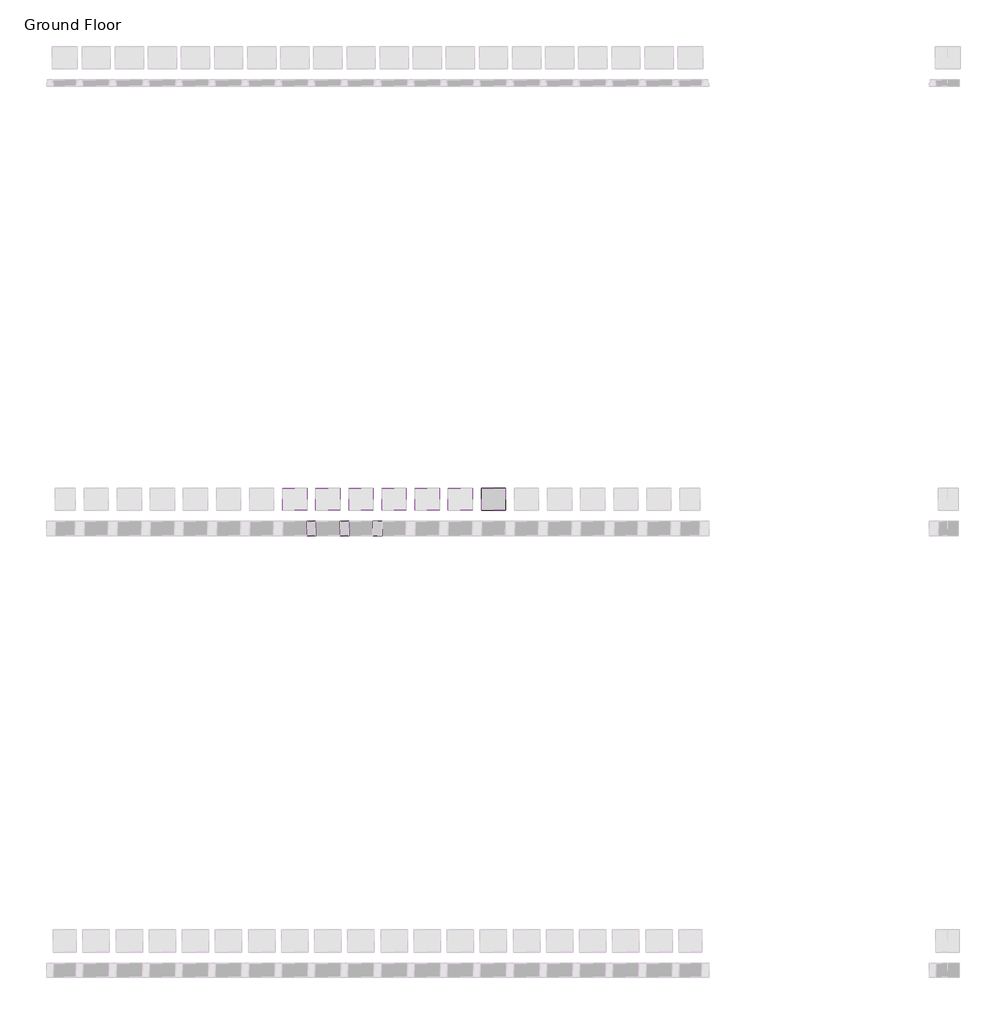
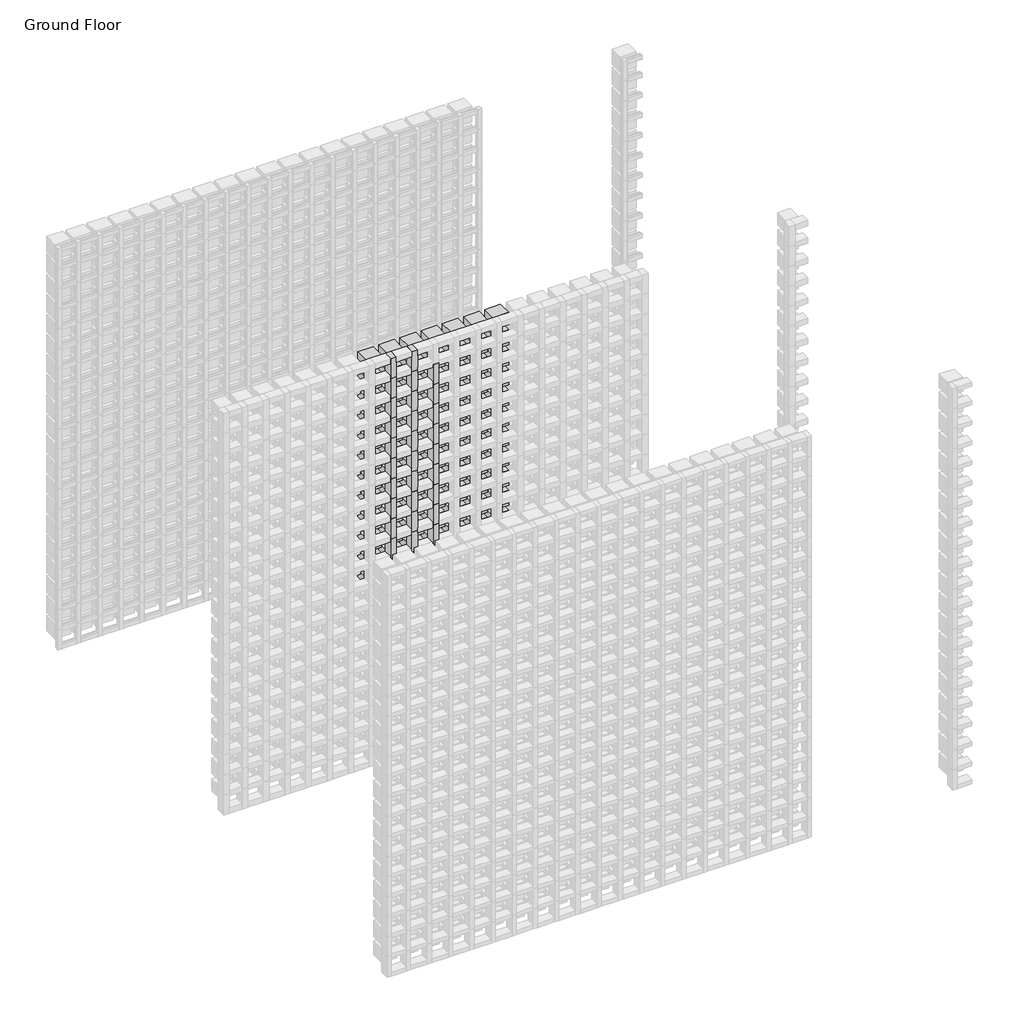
# One storey, part 130 of 350: 85 plates, 56 members.
"""IFC4 building model written with IfcOpenShell, lengths in millimetres."""

from ifc_helpers import new_model, si_unit, origin, place, context, project, spatial, transform, mapped, element, save
from components import rectangular_mullion_655930e9, empty_system_panel_empty_3b500fad, empty_system_panel_empty_1faefc6a

model = new_model("IFC4")

# Units and contexts
model_context = context("Model", 3, world=origin())
ifc_project = project(units=[si_unit("LENGTHUNIT", "METRE", prefix="MILLI")], contexts=[model_context])

# Site, building, storey
site = spatial("IfcSite", under=ifc_project)
building = spatial("IfcBuilding", under=site)
storey = spatial("IfcBuildingStorey", under=building, Name="Ground Floor", Elevation=0.0)

# Members
placement = place(None, origin())
rectangular_mullion_shape = rectangular_mullion_655930e9(model_context)
element("IfcMember", 1, ObjectType="Rectangular Mullion : Batten_Timber_Modinex_Austratus_Grid_Fascia_40x65_Hemlock", at=placement, inside=storey, context=model_context, shape_type="MappedRepresentation", body=[
    mapped(rectangular_mullion_shape, transform((11116.4361642, 40968.2978302, 150.0), x_axis=(1.0, 0.0, 0.0), y_axis=(0.0, -1.0, 0.0), z_axis=(0.0, 0.0, -1.0))),
])
element("IfcMember", 2, ObjectType="Rectangular Mullion : Batten_Timber_Modinex_Austratus_Grid_Fascia_40x65_Hemlock", at=placement, inside=storey, context=model_context, shape_type="MappedRepresentation", body=[
    mapped(rectangular_mullion_shape, transform((11116.4361642, 40968.2978302, 300.0), x_axis=(1.0, 0.0, 0.0), y_axis=(0.0, -1.0, 0.0), z_axis=(0.0, 0.0, -1.0))),
])
element("IfcMember", 3, ObjectType="Rectangular Mullion : Batten_Timber_Modinex_Austratus_Grid_Fascia_40x65_Hemlock", at=placement, inside=storey, context=model_context, shape_type="MappedRepresentation", body=[
    mapped(rectangular_mullion_shape, transform((11116.4361642, 40968.2978302, 450.0), x_axis=(1.0, 0.0, 0.0), y_axis=(0.0, -1.0, 0.0), z_axis=(0.0, 0.0, -1.0))),
])
element("IfcMember", 4, ObjectType="Rectangular Mullion : Batten_Timber_Modinex_Austratus_Grid_Fascia_40x65_Hemlock", at=placement, inside=storey, context=model_context, shape_type="MappedRepresentation", body=[
    mapped(rectangular_mullion_shape, transform((11116.4361642, 40968.2978302, 600.0), x_axis=(1.0, 0.0, 0.0), y_axis=(0.0, -1.0, 0.0), z_axis=(0.0, 0.0, -1.0))),
])
element("IfcMember", 5, ObjectType="Rectangular Mullion : Batten_Timber_Modinex_Austratus_Grid_Fascia_40x65_Hemlock", at=placement, inside=storey, context=model_context, shape_type="MappedRepresentation", body=[
    mapped(rectangular_mullion_shape, transform((11116.4361642, 40968.2978302, 750.0), x_axis=(1.0, 0.0, 0.0), y_axis=(0.0, -1.0, 0.0), z_axis=(0.0, 0.0, -1.0))),
])
element("IfcMember", 6, ObjectType="Rectangular Mullion : Batten_Timber_Modinex_Austratus_Grid_Fascia_40x65_Hemlock", at=placement, inside=storey, context=model_context, shape_type="MappedRepresentation", body=[
    mapped(rectangular_mullion_shape, transform((11116.4361642, 40968.2978302, 900.0), x_axis=(1.0, 0.0, 0.0), y_axis=(0.0, -1.0, 0.0), z_axis=(0.0, 0.0, -1.0))),
])
element("IfcMember", 7, ObjectType="Rectangular Mullion : Batten_Timber_Modinex_Austratus_Grid_Fascia_40x65_Hemlock", at=placement, inside=storey, context=model_context, shape_type="MappedRepresentation", body=[
    mapped(rectangular_mullion_shape, transform((11116.4361642, 40968.2978302, 1050.0), x_axis=(1.0, 0.0, 0.0), y_axis=(0.0, -1.0, 0.0), z_axis=(0.0, 0.0, -1.0))),
])
element("IfcMember", 8, ObjectType="Rectangular Mullion : Batten_Timber_Modinex_Austratus_Grid_Fascia_40x65_Hemlock", at=placement, inside=storey, context=model_context, shape_type="MappedRepresentation", body=[
    mapped(rectangular_mullion_shape, transform((11116.4361642, 40968.2978302, 1200.0), x_axis=(1.0, 0.0, 0.0), y_axis=(0.0, -1.0, 0.0), z_axis=(0.0, 0.0, -1.0))),
])
element("IfcMember", 9, ObjectType="Rectangular Mullion : Batten_Timber_Modinex_Austratus_Grid_Fascia_40x65_Hemlock", at=placement, inside=storey, context=model_context, shape_type="MappedRepresentation", body=[
    mapped(rectangular_mullion_shape, transform((11116.4361642, 40968.2978302, 1350.0), x_axis=(1.0, 0.0, 0.0), y_axis=(0.0, -1.0, 0.0), z_axis=(0.0, 0.0, -1.0))),
])
element("IfcMember", 10, ObjectType="Rectangular Mullion : Batten_Timber_Modinex_Austratus_Grid_Fascia_40x65_Hemlock", at=placement, inside=storey, context=model_context, shape_type="MappedRepresentation", body=[
    mapped(rectangular_mullion_shape, transform((11116.4361642, 40968.2978302, 1500.0), x_axis=(1.0, 0.0, 0.0), y_axis=(0.0, -1.0, 0.0), z_axis=(0.0, 0.0, -1.0))),
])
element("IfcMember", 11, ObjectType="Rectangular Mullion : Batten_Timber_Modinex_Austratus_Grid_Fascia_40x65_Hemlock", at=placement, inside=storey, context=model_context, shape_type="MappedRepresentation", body=[
    mapped(rectangular_mullion_shape, transform((11116.4361642, 40968.2978302, 1650.0), x_axis=(1.0, 0.0, 0.0), y_axis=(0.0, -1.0, 0.0), z_axis=(0.0, 0.0, -1.0))),
])
element("IfcMember", 12, ObjectType="Rectangular Mullion : Batten_Timber_Modinex_Austratus_Grid_Fascia_40x65_Hemlock", at=placement, inside=storey, context=model_context, shape_type="MappedRepresentation", body=[
    mapped(rectangular_mullion_shape, transform((11116.4361642, 40968.2978302, 1800.0), x_axis=(1.0, 0.0, 0.0), y_axis=(0.0, -1.0, 0.0), z_axis=(0.0, 0.0, -1.0))),
])
element("IfcMember", 13, ObjectType="Rectangular Mullion : Batten_Timber_Modinex_Austratus_Grid_Fascia_40x65_Hemlock", at=placement, inside=storey, context=model_context, shape_type="MappedRepresentation", body=[
    mapped(rectangular_mullion_shape, transform((11116.4361642, 40968.2978302, 1950.0), x_axis=(1.0, 0.0, 0.0), y_axis=(0.0, -1.0, 0.0), z_axis=(0.0, 0.0, -1.0))),
])
element("IfcMember", 14, ObjectType="Rectangular Mullion : Batten_Timber_Modinex_Austratus_Grid_Fascia_40x65_Hemlock", at=placement, inside=storey, context=model_context, shape_type="MappedRepresentation", body=[
    mapped(rectangular_mullion_shape, transform((11116.4361642, 40968.2978302, 2100.0), x_axis=(1.0, 0.0, 0.0), y_axis=(0.0, -1.0, 0.0), z_axis=(0.0, 0.0, -1.0))),
])
element("IfcMember", 15, ObjectType="Rectangular Mullion : Batten_Timber_Modinex_Austratus_Grid_Fascia_40x65_Hemlock", at=placement, inside=storey, context=model_context, shape_type="MappedRepresentation", body=[
    mapped(rectangular_mullion_shape, transform((11116.4361642, 40968.2978302, 2250.0), x_axis=(1.0, 0.0, 0.0), y_axis=(0.0, -1.0, 0.0), z_axis=(0.0, 0.0, -1.0))),
])
element("IfcMember", 16, ObjectType="Rectangular Mullion : Batten_Timber_Modinex_Austratus_Grid_Fascia_40x65_Hemlock", at=placement, inside=storey, context=model_context, shape_type="MappedRepresentation", body=[
    mapped(rectangular_mullion_shape, transform((11116.4361642, 40968.2978302, 2400.0), x_axis=(1.0, 0.0, 0.0), y_axis=(0.0, -1.0, 0.0), z_axis=(0.0, 0.0, -1.0))),
])
element("IfcMember", 17, ObjectType="Rectangular Mullion : Batten_Timber_Modinex_Austratus_Grid_Fascia_40x65_Hemlock", at=placement, inside=storey, context=model_context, shape_type="MappedRepresentation", body=[
    mapped(rectangular_mullion_shape, transform((11116.4361642, 40968.2978302, 2550.0), x_axis=(1.0, 0.0, 0.0), y_axis=(0.0, -1.0, 0.0), z_axis=(0.0, 0.0, -1.0))),
])
element("IfcMember", 18, ObjectType="Rectangular Mullion : Batten_Timber_Modinex_Austratus_Grid_Fascia_40x65_Hemlock", at=placement, inside=storey, context=model_context, shape_type="MappedRepresentation", body=[
    mapped(rectangular_mullion_shape, transform((11116.4361642, 40968.2978302, 2700.0), x_axis=(1.0, 0.0, 0.0), y_axis=(0.0, -1.0, 0.0), z_axis=(0.0, 0.0, -1.0))),
])
element("IfcMember", 19, ObjectType="Rectangular Mullion : Batten_Timber_Modinex_Austratus_Grid_Fascia_40x65_Hemlock", at=placement, inside=storey, context=model_context, shape_type="MappedRepresentation", body=[
    mapped(rectangular_mullion_shape, transform((11266.4361642, 40968.2978302, 150.0), x_axis=(1.0, 0.0, 0.0), y_axis=(0.0, -1.0, 0.0), z_axis=(0.0, 0.0, -1.0))),
])
element("IfcMember", 20, ObjectType="Rectangular Mullion : Batten_Timber_Modinex_Austratus_Grid_Fascia_40x65_Hemlock", at=placement, inside=storey, context=model_context, shape_type="MappedRepresentation", body=[
    mapped(rectangular_mullion_shape, transform((11266.4361642, 40968.2978302, 300.0), x_axis=(1.0, 0.0, 0.0), y_axis=(0.0, -1.0, 0.0), z_axis=(0.0, 0.0, -1.0))),
])
element("IfcMember", 21, ObjectType="Rectangular Mullion : Batten_Timber_Modinex_Austratus_Grid_Fascia_40x65_Hemlock", at=placement, inside=storey, context=model_context, shape_type="MappedRepresentation", body=[
    mapped(rectangular_mullion_shape, transform((11266.4361642, 40968.2978302, 450.0), x_axis=(1.0, 0.0, 0.0), y_axis=(0.0, -1.0, 0.0), z_axis=(0.0, 0.0, -1.0))),
])
element("IfcMember", 22, ObjectType="Rectangular Mullion : Batten_Timber_Modinex_Austratus_Grid_Fascia_40x65_Hemlock", at=placement, inside=storey, context=model_context, shape_type="MappedRepresentation", body=[
    mapped(rectangular_mullion_shape, transform((11266.4361642, 40968.2978302, 600.0), x_axis=(1.0, 0.0, 0.0), y_axis=(0.0, -1.0, 0.0), z_axis=(0.0, 0.0, -1.0))),
])
element("IfcMember", 23, ObjectType="Rectangular Mullion : Batten_Timber_Modinex_Austratus_Grid_Fascia_40x65_Hemlock", at=placement, inside=storey, context=model_context, shape_type="MappedRepresentation", body=[
    mapped(rectangular_mullion_shape, transform((11266.4361642, 40968.2978302, 750.0), x_axis=(1.0, 0.0, 0.0), y_axis=(0.0, -1.0, 0.0), z_axis=(0.0, 0.0, -1.0))),
])
element("IfcMember", 24, ObjectType="Rectangular Mullion : Batten_Timber_Modinex_Austratus_Grid_Fascia_40x65_Hemlock", at=placement, inside=storey, context=model_context, shape_type="MappedRepresentation", body=[
    mapped(rectangular_mullion_shape, transform((11266.4361642, 40968.2978302, 900.0), x_axis=(1.0, 0.0, 0.0), y_axis=(0.0, -1.0, 0.0), z_axis=(0.0, 0.0, -1.0))),
])
element("IfcMember", 25, ObjectType="Rectangular Mullion : Batten_Timber_Modinex_Austratus_Grid_Fascia_40x65_Hemlock", at=placement, inside=storey, context=model_context, shape_type="MappedRepresentation", body=[
    mapped(rectangular_mullion_shape, transform((11266.4361642, 40968.2978302, 1050.0), x_axis=(1.0, 0.0, 0.0), y_axis=(0.0, -1.0, 0.0), z_axis=(0.0, 0.0, -1.0))),
])
element("IfcMember", 26, ObjectType="Rectangular Mullion : Batten_Timber_Modinex_Austratus_Grid_Fascia_40x65_Hemlock", at=placement, inside=storey, context=model_context, shape_type="MappedRepresentation", body=[
    mapped(rectangular_mullion_shape, transform((11266.4361642, 40968.2978302, 1200.0), x_axis=(1.0, 0.0, 0.0), y_axis=(0.0, -1.0, 0.0), z_axis=(0.0, 0.0, -1.0))),
])
element("IfcMember", 27, ObjectType="Rectangular Mullion : Batten_Timber_Modinex_Austratus_Grid_Fascia_40x65_Hemlock", at=placement, inside=storey, context=model_context, shape_type="MappedRepresentation", body=[
    mapped(rectangular_mullion_shape, transform((11266.4361642, 40968.2978302, 1350.0), x_axis=(1.0, 0.0, 0.0), y_axis=(0.0, -1.0, 0.0), z_axis=(0.0, 0.0, -1.0))),
])
element("IfcMember", 28, ObjectType="Rectangular Mullion : Batten_Timber_Modinex_Austratus_Grid_Fascia_40x65_Hemlock", at=placement, inside=storey, context=model_context, shape_type="MappedRepresentation", body=[
    mapped(rectangular_mullion_shape, transform((11266.4361642, 40968.2978302, 1500.0), x_axis=(1.0, 0.0, 0.0), y_axis=(0.0, -1.0, 0.0), z_axis=(0.0, 0.0, -1.0))),
])
element("IfcMember", 29, ObjectType="Rectangular Mullion : Batten_Timber_Modinex_Austratus_Grid_Fascia_40x65_Hemlock", at=placement, inside=storey, context=model_context, shape_type="MappedRepresentation", body=[
    mapped(rectangular_mullion_shape, transform((11266.4361642, 40968.2978302, 1650.0), x_axis=(1.0, 0.0, 0.0), y_axis=(0.0, -1.0, 0.0), z_axis=(0.0, 0.0, -1.0))),
])
element("IfcMember", 30, ObjectType="Rectangular Mullion : Batten_Timber_Modinex_Austratus_Grid_Fascia_40x65_Hemlock", at=placement, inside=storey, context=model_context, shape_type="MappedRepresentation", body=[
    mapped(rectangular_mullion_shape, transform((11266.4361642, 40968.2978302, 1800.0), x_axis=(1.0, 0.0, 0.0), y_axis=(0.0, -1.0, 0.0), z_axis=(0.0, 0.0, -1.0))),
])
element("IfcMember", 31, ObjectType="Rectangular Mullion : Batten_Timber_Modinex_Austratus_Grid_Fascia_40x65_Hemlock", at=placement, inside=storey, context=model_context, shape_type="MappedRepresentation", body=[
    mapped(rectangular_mullion_shape, transform((11266.4361642, 40968.2978302, 1950.0), x_axis=(1.0, 0.0, 0.0), y_axis=(0.0, -1.0, 0.0), z_axis=(0.0, 0.0, -1.0))),
])
element("IfcMember", 32, ObjectType="Rectangular Mullion : Batten_Timber_Modinex_Austratus_Grid_Fascia_40x65_Hemlock", at=placement, inside=storey, context=model_context, shape_type="MappedRepresentation", body=[
    mapped(rectangular_mullion_shape, transform((11266.4361642, 40968.2978302, 2100.0), x_axis=(1.0, 0.0, 0.0), y_axis=(0.0, -1.0, 0.0), z_axis=(0.0, 0.0, -1.0))),
])
element("IfcMember", 33, ObjectType="Rectangular Mullion : Batten_Timber_Modinex_Austratus_Grid_Fascia_40x65_Hemlock", at=placement, inside=storey, context=model_context, shape_type="MappedRepresentation", body=[
    mapped(rectangular_mullion_shape, transform((11266.4361642, 40968.2978302, 2250.0), x_axis=(1.0, 0.0, 0.0), y_axis=(0.0, -1.0, 0.0), z_axis=(0.0, 0.0, -1.0))),
])
element("IfcMember", 34, ObjectType="Rectangular Mullion : Batten_Timber_Modinex_Austratus_Grid_Fascia_40x65_Hemlock", at=placement, inside=storey, context=model_context, shape_type="MappedRepresentation", body=[
    mapped(rectangular_mullion_shape, transform((11266.4361642, 40968.2978302, 2400.0), x_axis=(1.0, 0.0, 0.0), y_axis=(0.0, -1.0, 0.0), z_axis=(0.0, 0.0, -1.0))),
])
element("IfcMember", 35, ObjectType="Rectangular Mullion : Batten_Timber_Modinex_Austratus_Grid_Fascia_40x65_Hemlock", at=placement, inside=storey, context=model_context, shape_type="MappedRepresentation", body=[
    mapped(rectangular_mullion_shape, transform((11266.4361642, 40968.2978302, 2550.0), x_axis=(1.0, 0.0, 0.0), y_axis=(0.0, -1.0, 0.0), z_axis=(0.0, 0.0, -1.0))),
])
element("IfcMember", 36, ObjectType="Rectangular Mullion : Batten_Timber_Modinex_Austratus_Grid_Fascia_40x65_Hemlock", at=placement, inside=storey, context=model_context, shape_type="MappedRepresentation", body=[
    mapped(rectangular_mullion_shape, transform((11266.4361642, 40968.2978302, 2700.0), x_axis=(1.0, 0.0, 0.0), y_axis=(0.0, -1.0, 0.0), z_axis=(0.0, 0.0, -1.0))),
])
element("IfcMember", 37, ObjectType="Rectangular Mullion : Batten_Timber_Modinex_Austratus_Grid_Fascia_40x65_Hemlock", at=placement, inside=storey, context=model_context, shape_type="MappedRepresentation", body=[
    mapped(rectangular_mullion_shape, transform((11416.4361642, 40968.2978302, 150.0), x_axis=(1.0, 0.0, 0.0), y_axis=(0.0, -1.0, 0.0), z_axis=(0.0, 0.0, -1.0))),
])
element("IfcMember", 38, ObjectType="Rectangular Mullion : Batten_Timber_Modinex_Austratus_Grid_Fascia_40x65_Hemlock", at=placement, inside=storey, context=model_context, shape_type="MappedRepresentation", body=[
    mapped(rectangular_mullion_shape, transform((11416.4361642, 40968.2978302, 300.0), x_axis=(1.0, 0.0, 0.0), y_axis=(0.0, -1.0, 0.0), z_axis=(0.0, 0.0, -1.0))),
])
element("IfcMember", 39, ObjectType="Rectangular Mullion : Batten_Timber_Modinex_Austratus_Grid_Fascia_40x65_Hemlock", at=placement, inside=storey, context=model_context, shape_type="MappedRepresentation", body=[
    mapped(rectangular_mullion_shape, transform((11416.4361642, 40968.2978302, 450.0), x_axis=(1.0, 0.0, 0.0), y_axis=(0.0, -1.0, 0.0), z_axis=(0.0, 0.0, -1.0))),
])
element("IfcMember", 40, ObjectType="Rectangular Mullion : Batten_Timber_Modinex_Austratus_Grid_Fascia_40x65_Hemlock", at=placement, inside=storey, context=model_context, shape_type="MappedRepresentation", body=[
    mapped(rectangular_mullion_shape, transform((11416.4361642, 40968.2978302, 600.0), x_axis=(1.0, 0.0, 0.0), y_axis=(0.0, -1.0, 0.0), z_axis=(0.0, 0.0, -1.0))),
])
element("IfcMember", 41, ObjectType="Rectangular Mullion : Batten_Timber_Modinex_Austratus_Grid_Fascia_40x65_Hemlock", at=placement, inside=storey, context=model_context, shape_type="MappedRepresentation", body=[
    mapped(rectangular_mullion_shape, transform((11416.4361642, 40968.2978302, 750.0), x_axis=(1.0, 0.0, 0.0), y_axis=(0.0, -1.0, 0.0), z_axis=(0.0, 0.0, -1.0))),
])
element("IfcMember", 42, ObjectType="Rectangular Mullion : Batten_Timber_Modinex_Austratus_Grid_Fascia_40x65_Hemlock", at=placement, inside=storey, context=model_context, shape_type="MappedRepresentation", body=[
    mapped(rectangular_mullion_shape, transform((11416.4361642, 40968.2978302, 900.0), x_axis=(1.0, 0.0, 0.0), y_axis=(0.0, -1.0, 0.0), z_axis=(0.0, 0.0, -1.0))),
])
element("IfcMember", 43, ObjectType="Rectangular Mullion : Batten_Timber_Modinex_Austratus_Grid_Fascia_40x65_Hemlock", at=placement, inside=storey, context=model_context, shape_type="MappedRepresentation", body=[
    mapped(rectangular_mullion_shape, transform((11416.4361642, 40968.2978302, 1050.0), x_axis=(1.0, 0.0, 0.0), y_axis=(0.0, -1.0, 0.0), z_axis=(0.0, 0.0, -1.0))),
])
element("IfcMember", 44, ObjectType="Rectangular Mullion : Batten_Timber_Modinex_Austratus_Grid_Fascia_40x65_Hemlock", at=placement, inside=storey, context=model_context, shape_type="MappedRepresentation", body=[
    mapped(rectangular_mullion_shape, transform((11416.4361642, 40968.2978302, 1200.0), x_axis=(1.0, 0.0, 0.0), y_axis=(0.0, -1.0, 0.0), z_axis=(0.0, 0.0, -1.0))),
])
element("IfcMember", 45, ObjectType="Rectangular Mullion : Batten_Timber_Modinex_Austratus_Grid_Fascia_40x65_Hemlock", at=placement, inside=storey, context=model_context, shape_type="MappedRepresentation", body=[
    mapped(rectangular_mullion_shape, transform((11416.4361642, 40968.2978302, 1350.0), x_axis=(1.0, 0.0, 0.0), y_axis=(0.0, -1.0, 0.0), z_axis=(0.0, 0.0, -1.0))),
])
element("IfcMember", 46, ObjectType="Rectangular Mullion : Batten_Timber_Modinex_Austratus_Grid_Fascia_40x65_Hemlock", at=placement, inside=storey, context=model_context, shape_type="MappedRepresentation", body=[
    mapped(rectangular_mullion_shape, transform((11416.4361642, 40968.2978302, 1500.0), x_axis=(1.0, 0.0, 0.0), y_axis=(0.0, -1.0, 0.0), z_axis=(0.0, 0.0, -1.0))),
])
element("IfcMember", 47, ObjectType="Rectangular Mullion : Batten_Timber_Modinex_Austratus_Grid_Fascia_40x65_Hemlock", at=placement, inside=storey, context=model_context, shape_type="MappedRepresentation", body=[
    mapped(rectangular_mullion_shape, transform((11416.4361642, 40968.2978302, 1650.0), x_axis=(1.0, 0.0, 0.0), y_axis=(0.0, -1.0, 0.0), z_axis=(0.0, 0.0, -1.0))),
])
element("IfcMember", 48, ObjectType="Rectangular Mullion : Batten_Timber_Modinex_Austratus_Grid_Fascia_40x65_Hemlock", at=placement, inside=storey, context=model_context, shape_type="MappedRepresentation", body=[
    mapped(rectangular_mullion_shape, transform((11416.4361642, 40968.2978302, 1800.0), x_axis=(1.0, 0.0, 0.0), y_axis=(0.0, -1.0, 0.0), z_axis=(0.0, 0.0, -1.0))),
])
element("IfcMember", 49, ObjectType="Rectangular Mullion : Batten_Timber_Modinex_Austratus_Grid_Fascia_40x65_Hemlock", at=placement, inside=storey, context=model_context, shape_type="MappedRepresentation", body=[
    mapped(rectangular_mullion_shape, transform((11416.4361642, 40968.2978302, 1950.0), x_axis=(1.0, 0.0, 0.0), y_axis=(0.0, -1.0, 0.0), z_axis=(0.0, 0.0, -1.0))),
])
element("IfcMember", 50, ObjectType="Rectangular Mullion : Batten_Timber_Modinex_Austratus_Grid_Fascia_40x65_Hemlock", at=placement, inside=storey, context=model_context, shape_type="MappedRepresentation", body=[
    mapped(rectangular_mullion_shape, transform((11416.4361642, 40968.2978302, 2100.0), x_axis=(1.0, 0.0, 0.0), y_axis=(0.0, -1.0, 0.0), z_axis=(0.0, 0.0, -1.0))),
])
element("IfcMember", 51, ObjectType="Rectangular Mullion : Batten_Timber_Modinex_Austratus_Grid_Fascia_40x65_Hemlock", at=placement, inside=storey, context=model_context, shape_type="MappedRepresentation", body=[
    mapped(rectangular_mullion_shape, transform((11416.4361642, 40968.2978302, 2250.0), x_axis=(1.0, 0.0, 0.0), y_axis=(0.0, -1.0, 0.0), z_axis=(0.0, 0.0, -1.0))),
])
element("IfcMember", 52, ObjectType="Rectangular Mullion : Batten_Timber_Modinex_Austratus_Grid_Fascia_40x65_Hemlock", at=placement, inside=storey, context=model_context, shape_type="MappedRepresentation", body=[
    mapped(rectangular_mullion_shape, transform((11416.4361642, 40968.2978302, 2400.0), x_axis=(1.0, 0.0, 0.0), y_axis=(0.0, -1.0, 0.0), z_axis=(0.0, 0.0, -1.0))),
])
element("IfcMember", 53, ObjectType="Rectangular Mullion : Batten_Timber_Modinex_Austratus_Grid_Fascia_40x65_Hemlock", at=placement, inside=storey, context=model_context, shape_type="MappedRepresentation", body=[
    mapped(rectangular_mullion_shape, transform((11416.4361642, 40968.2978302, 2550.0), x_axis=(1.0, 0.0, 0.0), y_axis=(0.0, -1.0, 0.0), z_axis=(0.0, 0.0, -1.0))),
])
element("IfcMember", 54, ObjectType="Rectangular Mullion : Batten_Timber_Modinex_Austratus_Grid_Fascia_40x65_Hemlock", at=placement, inside=storey, context=model_context, shape_type="MappedRepresentation", body=[
    mapped(rectangular_mullion_shape, transform((11416.4361642, 40968.2978302, 2700.0), x_axis=(1.0, 0.0, 0.0), y_axis=(0.0, -1.0, 0.0), z_axis=(0.0, 0.0, -1.0))),
])
element("IfcMember", 55, ObjectType="Rectangular Mullion : Batten_Timber_Modinex_Austratus_Grid_Fascia_40x65_Hemlock", at=placement, inside=storey, context=model_context, shape_type="MappedRepresentation", body=[
    mapped(rectangular_mullion_shape, transform((11116.4361642, 40968.2978302, 2850.0), x_axis=(1.0, 0.0, 0.0), y_axis=(0.0, -1.0, 0.0), z_axis=(0.0, 0.0, -1.0))),
])
element("IfcMember", 56, ObjectType="Rectangular Mullion : Batten_Timber_Modinex_Austratus_Grid_Fascia_40x65_Hemlock", at=placement, inside=storey, context=model_context, shape_type="MappedRepresentation", body=[
    mapped(rectangular_mullion_shape, transform((11266.4361642, 40968.2978302, 2850.0), x_axis=(1.0, 0.0, 0.0), y_axis=(0.0, -1.0, 0.0), z_axis=(0.0, 0.0, -1.0))),
])

# Plates
empty_system_panel_empty_shape = empty_system_panel_empty_3b500fad(model_context)
element("IfcPlate", 57, ObjectType="Empty System Panel : Empty", at=placement, inside=storey, context=model_context, shape_type="MappedRepresentation", body=[
    mapped(empty_system_panel_empty_shape, transform((11941.4361642, 40968.2978302, 1070.0), x_axis=(1.0, 0.0, 0.0), y_axis=(0.0, 1.0, 0.0), z_axis=(0.0, 0.0, 1.0))),
])
element("IfcPlate", 58, ObjectType="Empty System Panel : Empty", at=placement, inside=storey, context=model_context, shape_type="MappedRepresentation", body=[
    mapped(empty_system_panel_empty_shape, transform((11041.4361642, 40968.2978302, 1220.0), x_axis=(1.0, 0.0, 0.0), y_axis=(0.0, 1.0, 0.0), z_axis=(0.0, 0.0, 1.0))),
])
element("IfcPlate", 59, ObjectType="Empty System Panel : Empty", at=placement, inside=storey, context=model_context, shape_type="MappedRepresentation", body=[
    mapped(empty_system_panel_empty_shape, transform((11191.4361642, 40968.2978302, 1220.0), x_axis=(1.0, 0.0, 0.0), y_axis=(0.0, 1.0, 0.0), z_axis=(0.0, 0.0, 1.0))),
])
element("IfcPlate", 60, ObjectType="Empty System Panel : Empty", at=placement, inside=storey, context=model_context, shape_type="MappedRepresentation", body=[
    mapped(empty_system_panel_empty_shape, transform((11341.4361642, 40968.2978302, 1220.0), x_axis=(1.0, 0.0, 0.0), y_axis=(0.0, 1.0, 0.0), z_axis=(0.0, 0.0, 1.0))),
])
element("IfcPlate", 61, ObjectType="Empty System Panel : Empty", at=placement, inside=storey, context=model_context, shape_type="MappedRepresentation", body=[
    mapped(empty_system_panel_empty_shape, transform((11491.4361642, 40968.2978302, 1220.0), x_axis=(1.0, 0.0, 0.0), y_axis=(0.0, 1.0, 0.0), z_axis=(0.0, 0.0, 1.0))),
])
element("IfcPlate", 62, ObjectType="Empty System Panel : Empty", at=placement, inside=storey, context=model_context, shape_type="MappedRepresentation", body=[
    mapped(empty_system_panel_empty_shape, transform((11641.4361642, 40968.2978302, 1220.0), x_axis=(1.0, 0.0, 0.0), y_axis=(0.0, 1.0, 0.0), z_axis=(0.0, 0.0, 1.0))),
])
element("IfcPlate", 63, ObjectType="Empty System Panel : Empty", at=placement, inside=storey, context=model_context, shape_type="MappedRepresentation", body=[
    mapped(empty_system_panel_empty_shape, transform((11791.4361642, 40968.2978302, 1220.0), x_axis=(1.0, 0.0, 0.0), y_axis=(0.0, 1.0, 0.0), z_axis=(0.0, 0.0, 1.0))),
])
element("IfcPlate", 64, ObjectType="Empty System Panel : Empty", at=placement, inside=storey, context=model_context, shape_type="MappedRepresentation", body=[
    mapped(empty_system_panel_empty_shape, transform((11941.4361642, 40968.2978302, 1220.0), x_axis=(1.0, 0.0, 0.0), y_axis=(0.0, 1.0, 0.0), z_axis=(0.0, 0.0, 1.0))),
])
element("IfcPlate", 65, ObjectType="Empty System Panel : Empty", at=placement, inside=storey, context=model_context, shape_type="MappedRepresentation", body=[
    mapped(empty_system_panel_empty_shape, transform((11041.4361642, 40968.2978302, 1370.0), x_axis=(1.0, 0.0, 0.0), y_axis=(0.0, 1.0, 0.0), z_axis=(0.0, 0.0, 1.0))),
])
element("IfcPlate", 66, ObjectType="Empty System Panel : Empty", at=placement, inside=storey, context=model_context, shape_type="MappedRepresentation", body=[
    mapped(empty_system_panel_empty_shape, transform((11191.4361642, 40968.2978302, 1370.0), x_axis=(1.0, 0.0, 0.0), y_axis=(0.0, 1.0, 0.0), z_axis=(0.0, 0.0, 1.0))),
])
element("IfcPlate", 67, ObjectType="Empty System Panel : Empty", at=placement, inside=storey, context=model_context, shape_type="MappedRepresentation", body=[
    mapped(empty_system_panel_empty_shape, transform((11341.4361642, 40968.2978302, 1370.0), x_axis=(1.0, 0.0, 0.0), y_axis=(0.0, 1.0, 0.0), z_axis=(0.0, 0.0, 1.0))),
])
element("IfcPlate", 68, ObjectType="Empty System Panel : Empty", at=placement, inside=storey, context=model_context, shape_type="MappedRepresentation", body=[
    mapped(empty_system_panel_empty_shape, transform((11491.4361642, 40968.2978302, 1370.0), x_axis=(1.0, 0.0, 0.0), y_axis=(0.0, 1.0, 0.0), z_axis=(0.0, 0.0, 1.0))),
])
element("IfcPlate", 69, ObjectType="Empty System Panel : Empty", at=placement, inside=storey, context=model_context, shape_type="MappedRepresentation", body=[
    mapped(empty_system_panel_empty_shape, transform((11641.4361642, 40968.2978302, 1370.0), x_axis=(1.0, 0.0, 0.0), y_axis=(0.0, 1.0, 0.0), z_axis=(0.0, 0.0, 1.0))),
])
element("IfcPlate", 70, ObjectType="Empty System Panel : Empty", at=placement, inside=storey, context=model_context, shape_type="MappedRepresentation", body=[
    mapped(empty_system_panel_empty_shape, transform((11791.4361642, 40968.2978302, 1370.0), x_axis=(1.0, 0.0, 0.0), y_axis=(0.0, 1.0, 0.0), z_axis=(0.0, 0.0, 1.0))),
])
element("IfcPlate", 71, ObjectType="Empty System Panel : Empty", at=placement, inside=storey, context=model_context, shape_type="MappedRepresentation", body=[
    mapped(empty_system_panel_empty_shape, transform((11941.4361642, 40968.2978302, 1370.0), x_axis=(1.0, 0.0, 0.0), y_axis=(0.0, 1.0, 0.0), z_axis=(0.0, 0.0, 1.0))),
])
element("IfcPlate", 72, ObjectType="Empty System Panel : Empty", at=placement, inside=storey, context=model_context, shape_type="MappedRepresentation", body=[
    mapped(empty_system_panel_empty_shape, transform((11041.4361642, 40968.2978302, 1520.0), x_axis=(1.0, 0.0, 0.0), y_axis=(0.0, 1.0, 0.0), z_axis=(0.0, 0.0, 1.0))),
])
element("IfcPlate", 73, ObjectType="Empty System Panel : Empty", at=placement, inside=storey, context=model_context, shape_type="MappedRepresentation", body=[
    mapped(empty_system_panel_empty_shape, transform((11191.4361642, 40968.2978302, 1520.0), x_axis=(1.0, 0.0, 0.0), y_axis=(0.0, 1.0, 0.0), z_axis=(0.0, 0.0, 1.0))),
])
element("IfcPlate", 74, ObjectType="Empty System Panel : Empty", at=placement, inside=storey, context=model_context, shape_type="MappedRepresentation", body=[
    mapped(empty_system_panel_empty_shape, transform((11341.4361642, 40968.2978302, 1520.0), x_axis=(1.0, 0.0, 0.0), y_axis=(0.0, 1.0, 0.0), z_axis=(0.0, 0.0, 1.0))),
])
element("IfcPlate", 75, ObjectType="Empty System Panel : Empty", at=placement, inside=storey, context=model_context, shape_type="MappedRepresentation", body=[
    mapped(empty_system_panel_empty_shape, transform((11491.4361642, 40968.2978302, 1520.0), x_axis=(1.0, 0.0, 0.0), y_axis=(0.0, 1.0, 0.0), z_axis=(0.0, 0.0, 1.0))),
])
element("IfcPlate", 76, ObjectType="Empty System Panel : Empty", at=placement, inside=storey, context=model_context, shape_type="MappedRepresentation", body=[
    mapped(empty_system_panel_empty_shape, transform((11641.4361642, 40968.2978302, 1520.0), x_axis=(1.0, 0.0, 0.0), y_axis=(0.0, 1.0, 0.0), z_axis=(0.0, 0.0, 1.0))),
])
element("IfcPlate", 77, ObjectType="Empty System Panel : Empty", at=placement, inside=storey, context=model_context, shape_type="MappedRepresentation", body=[
    mapped(empty_system_panel_empty_shape, transform((11791.4361642, 40968.2978302, 1520.0), x_axis=(1.0, 0.0, 0.0), y_axis=(0.0, 1.0, 0.0), z_axis=(0.0, 0.0, 1.0))),
])
element("IfcPlate", 78, ObjectType="Empty System Panel : Empty", at=placement, inside=storey, context=model_context, shape_type="MappedRepresentation", body=[
    mapped(empty_system_panel_empty_shape, transform((11941.4361642, 40968.2978302, 1520.0), x_axis=(1.0, 0.0, 0.0), y_axis=(0.0, 1.0, 0.0), z_axis=(0.0, 0.0, 1.0))),
])
element("IfcPlate", 79, ObjectType="Empty System Panel : Empty", at=placement, inside=storey, context=model_context, shape_type="MappedRepresentation", body=[
    mapped(empty_system_panel_empty_shape, transform((11041.4361642, 40968.2978302, 1670.0), x_axis=(1.0, 0.0, 0.0), y_axis=(0.0, 1.0, 0.0), z_axis=(0.0, 0.0, 1.0))),
])
element("IfcPlate", 80, ObjectType="Empty System Panel : Empty", at=placement, inside=storey, context=model_context, shape_type="MappedRepresentation", body=[
    mapped(empty_system_panel_empty_shape, transform((11191.4361642, 40968.2978302, 1670.0), x_axis=(1.0, 0.0, 0.0), y_axis=(0.0, 1.0, 0.0), z_axis=(0.0, 0.0, 1.0))),
])
element("IfcPlate", 81, ObjectType="Empty System Panel : Empty", at=placement, inside=storey, context=model_context, shape_type="MappedRepresentation", body=[
    mapped(empty_system_panel_empty_shape, transform((11341.4361642, 40968.2978302, 1670.0), x_axis=(1.0, 0.0, 0.0), y_axis=(0.0, 1.0, 0.0), z_axis=(0.0, 0.0, 1.0))),
])
element("IfcPlate", 82, ObjectType="Empty System Panel : Empty", at=placement, inside=storey, context=model_context, shape_type="MappedRepresentation", body=[
    mapped(empty_system_panel_empty_shape, transform((11491.4361642, 40968.2978302, 1670.0), x_axis=(1.0, 0.0, 0.0), y_axis=(0.0, 1.0, 0.0), z_axis=(0.0, 0.0, 1.0))),
])
element("IfcPlate", 83, ObjectType="Empty System Panel : Empty", at=placement, inside=storey, context=model_context, shape_type="MappedRepresentation", body=[
    mapped(empty_system_panel_empty_shape, transform((11641.4361642, 40968.2978302, 1670.0), x_axis=(1.0, 0.0, 0.0), y_axis=(0.0, 1.0, 0.0), z_axis=(0.0, 0.0, 1.0))),
])
element("IfcPlate", 84, ObjectType="Empty System Panel : Empty", at=placement, inside=storey, context=model_context, shape_type="MappedRepresentation", body=[
    mapped(empty_system_panel_empty_shape, transform((11791.4361642, 40968.2978302, 1670.0), x_axis=(1.0, 0.0, 0.0), y_axis=(0.0, 1.0, 0.0), z_axis=(0.0, 0.0, 1.0))),
])
element("IfcPlate", 85, ObjectType="Empty System Panel : Empty", at=placement, inside=storey, context=model_context, shape_type="MappedRepresentation", body=[
    mapped(empty_system_panel_empty_shape, transform((11941.4361642, 40968.2978302, 1670.0), x_axis=(1.0, 0.0, 0.0), y_axis=(0.0, 1.0, 0.0), z_axis=(0.0, 0.0, 1.0))),
])
element("IfcPlate", 86, ObjectType="Empty System Panel : Empty", at=placement, inside=storey, context=model_context, shape_type="MappedRepresentation", body=[
    mapped(empty_system_panel_empty_shape, transform((11041.4361642, 40968.2978302, 1820.0), x_axis=(1.0, 0.0, 0.0), y_axis=(0.0, 1.0, 0.0), z_axis=(0.0, 0.0, 1.0))),
])
element("IfcPlate", 87, ObjectType="Empty System Panel : Empty", at=placement, inside=storey, context=model_context, shape_type="MappedRepresentation", body=[
    mapped(empty_system_panel_empty_shape, transform((11191.4361642, 40968.2978302, 1820.0), x_axis=(1.0, 0.0, 0.0), y_axis=(0.0, 1.0, 0.0), z_axis=(0.0, 0.0, 1.0))),
])
element("IfcPlate", 88, ObjectType="Empty System Panel : Empty", at=placement, inside=storey, context=model_context, shape_type="MappedRepresentation", body=[
    mapped(empty_system_panel_empty_shape, transform((11341.4361642, 40968.2978302, 1820.0), x_axis=(1.0, 0.0, 0.0), y_axis=(0.0, 1.0, 0.0), z_axis=(0.0, 0.0, 1.0))),
])
element("IfcPlate", 89, ObjectType="Empty System Panel : Empty", at=placement, inside=storey, context=model_context, shape_type="MappedRepresentation", body=[
    mapped(empty_system_panel_empty_shape, transform((11491.4361642, 40968.2978302, 1820.0), x_axis=(1.0, 0.0, 0.0), y_axis=(0.0, 1.0, 0.0), z_axis=(0.0, 0.0, 1.0))),
])
element("IfcPlate", 90, ObjectType="Empty System Panel : Empty", at=placement, inside=storey, context=model_context, shape_type="MappedRepresentation", body=[
    mapped(empty_system_panel_empty_shape, transform((11641.4361642, 40968.2978302, 1820.0), x_axis=(1.0, 0.0, 0.0), y_axis=(0.0, 1.0, 0.0), z_axis=(0.0, 0.0, 1.0))),
])
element("IfcPlate", 91, ObjectType="Empty System Panel : Empty", at=placement, inside=storey, context=model_context, shape_type="MappedRepresentation", body=[
    mapped(empty_system_panel_empty_shape, transform((11791.4361642, 40968.2978302, 1820.0), x_axis=(1.0, 0.0, 0.0), y_axis=(0.0, 1.0, 0.0), z_axis=(0.0, 0.0, 1.0))),
])
element("IfcPlate", 92, ObjectType="Empty System Panel : Empty", at=placement, inside=storey, context=model_context, shape_type="MappedRepresentation", body=[
    mapped(empty_system_panel_empty_shape, transform((11941.4361642, 40968.2978302, 1820.0), x_axis=(1.0, 0.0, 0.0), y_axis=(0.0, 1.0, 0.0), z_axis=(0.0, 0.0, 1.0))),
])
element("IfcPlate", 93, ObjectType="Empty System Panel : Empty", at=placement, inside=storey, context=model_context, shape_type="MappedRepresentation", body=[
    mapped(empty_system_panel_empty_shape, transform((11041.4361642, 40968.2978302, 1970.0), x_axis=(1.0, 0.0, 0.0), y_axis=(0.0, 1.0, 0.0), z_axis=(0.0, 0.0, 1.0))),
])
element("IfcPlate", 94, ObjectType="Empty System Panel : Empty", at=placement, inside=storey, context=model_context, shape_type="MappedRepresentation", body=[
    mapped(empty_system_panel_empty_shape, transform((11191.4361642, 40968.2978302, 1970.0), x_axis=(1.0, 0.0, 0.0), y_axis=(0.0, 1.0, 0.0), z_axis=(0.0, 0.0, 1.0))),
])
element("IfcPlate", 95, ObjectType="Empty System Panel : Empty", at=placement, inside=storey, context=model_context, shape_type="MappedRepresentation", body=[
    mapped(empty_system_panel_empty_shape, transform((11341.4361642, 40968.2978302, 1970.0), x_axis=(1.0, 0.0, 0.0), y_axis=(0.0, 1.0, 0.0), z_axis=(0.0, 0.0, 1.0))),
])
element("IfcPlate", 96, ObjectType="Empty System Panel : Empty", at=placement, inside=storey, context=model_context, shape_type="MappedRepresentation", body=[
    mapped(empty_system_panel_empty_shape, transform((11491.4361642, 40968.2978302, 1970.0), x_axis=(1.0, 0.0, 0.0), y_axis=(0.0, 1.0, 0.0), z_axis=(0.0, 0.0, 1.0))),
])
element("IfcPlate", 97, ObjectType="Empty System Panel : Empty", at=placement, inside=storey, context=model_context, shape_type="MappedRepresentation", body=[
    mapped(empty_system_panel_empty_shape, transform((11641.4361642, 40968.2978302, 1970.0), x_axis=(1.0, 0.0, 0.0), y_axis=(0.0, 1.0, 0.0), z_axis=(0.0, 0.0, 1.0))),
])
element("IfcPlate", 98, ObjectType="Empty System Panel : Empty", at=placement, inside=storey, context=model_context, shape_type="MappedRepresentation", body=[
    mapped(empty_system_panel_empty_shape, transform((11791.4361642, 40968.2978302, 1970.0), x_axis=(1.0, 0.0, 0.0), y_axis=(0.0, 1.0, 0.0), z_axis=(0.0, 0.0, 1.0))),
])
element("IfcPlate", 99, ObjectType="Empty System Panel : Empty", at=placement, inside=storey, context=model_context, shape_type="MappedRepresentation", body=[
    mapped(empty_system_panel_empty_shape, transform((11941.4361642, 40968.2978302, 1970.0), x_axis=(1.0, 0.0, 0.0), y_axis=(0.0, 1.0, 0.0), z_axis=(0.0, 0.0, 1.0))),
])
element("IfcPlate", 100, ObjectType="Empty System Panel : Empty", at=placement, inside=storey, context=model_context, shape_type="MappedRepresentation", body=[
    mapped(empty_system_panel_empty_shape, transform((11041.4361642, 40968.2978302, 2120.0), x_axis=(1.0, 0.0, 0.0), y_axis=(0.0, 1.0, 0.0), z_axis=(0.0, 0.0, 1.0))),
])
element("IfcPlate", 101, ObjectType="Empty System Panel : Empty", at=placement, inside=storey, context=model_context, shape_type="MappedRepresentation", body=[
    mapped(empty_system_panel_empty_shape, transform((11191.4361642, 40968.2978302, 2120.0), x_axis=(1.0, 0.0, 0.0), y_axis=(0.0, 1.0, 0.0), z_axis=(0.0, 0.0, 1.0))),
])
element("IfcPlate", 102, ObjectType="Empty System Panel : Empty", at=placement, inside=storey, context=model_context, shape_type="MappedRepresentation", body=[
    mapped(empty_system_panel_empty_shape, transform((11341.4361642, 40968.2978302, 2120.0), x_axis=(1.0, 0.0, 0.0), y_axis=(0.0, 1.0, 0.0), z_axis=(0.0, 0.0, 1.0))),
])
element("IfcPlate", 103, ObjectType="Empty System Panel : Empty", at=placement, inside=storey, context=model_context, shape_type="MappedRepresentation", body=[
    mapped(empty_system_panel_empty_shape, transform((11491.4361642, 40968.2978302, 2120.0), x_axis=(1.0, 0.0, 0.0), y_axis=(0.0, 1.0, 0.0), z_axis=(0.0, 0.0, 1.0))),
])
element("IfcPlate", 104, ObjectType="Empty System Panel : Empty", at=placement, inside=storey, context=model_context, shape_type="MappedRepresentation", body=[
    mapped(empty_system_panel_empty_shape, transform((11641.4361642, 40968.2978302, 2120.0), x_axis=(1.0, 0.0, 0.0), y_axis=(0.0, 1.0, 0.0), z_axis=(0.0, 0.0, 1.0))),
])
element("IfcPlate", 105, ObjectType="Empty System Panel : Empty", at=placement, inside=storey, context=model_context, shape_type="MappedRepresentation", body=[
    mapped(empty_system_panel_empty_shape, transform((11791.4361642, 40968.2978302, 2120.0), x_axis=(1.0, 0.0, 0.0), y_axis=(0.0, 1.0, 0.0), z_axis=(0.0, 0.0, 1.0))),
])
element("IfcPlate", 106, ObjectType="Empty System Panel : Empty", at=placement, inside=storey, context=model_context, shape_type="MappedRepresentation", body=[
    mapped(empty_system_panel_empty_shape, transform((11941.4361642, 40968.2978302, 2120.0), x_axis=(1.0, 0.0, 0.0), y_axis=(0.0, 1.0, 0.0), z_axis=(0.0, 0.0, 1.0))),
])
element("IfcPlate", 107, ObjectType="Empty System Panel : Empty", at=placement, inside=storey, context=model_context, shape_type="MappedRepresentation", body=[
    mapped(empty_system_panel_empty_shape, transform((11041.4361642, 40968.2978302, 2270.0), x_axis=(1.0, 0.0, 0.0), y_axis=(0.0, 1.0, 0.0), z_axis=(0.0, 0.0, 1.0))),
])
element("IfcPlate", 108, ObjectType="Empty System Panel : Empty", at=placement, inside=storey, context=model_context, shape_type="MappedRepresentation", body=[
    mapped(empty_system_panel_empty_shape, transform((11191.4361642, 40968.2978302, 2270.0), x_axis=(1.0, 0.0, 0.0), y_axis=(0.0, 1.0, 0.0), z_axis=(0.0, 0.0, 1.0))),
])
element("IfcPlate", 109, ObjectType="Empty System Panel : Empty", at=placement, inside=storey, context=model_context, shape_type="MappedRepresentation", body=[
    mapped(empty_system_panel_empty_shape, transform((11341.4361642, 40968.2978302, 2270.0), x_axis=(1.0, 0.0, 0.0), y_axis=(0.0, 1.0, 0.0), z_axis=(0.0, 0.0, 1.0))),
])
element("IfcPlate", 110, ObjectType="Empty System Panel : Empty", at=placement, inside=storey, context=model_context, shape_type="MappedRepresentation", body=[
    mapped(empty_system_panel_empty_shape, transform((11491.4361642, 40968.2978302, 2270.0), x_axis=(1.0, 0.0, 0.0), y_axis=(0.0, 1.0, 0.0), z_axis=(0.0, 0.0, 1.0))),
])
element("IfcPlate", 111, ObjectType="Empty System Panel : Empty", at=placement, inside=storey, context=model_context, shape_type="MappedRepresentation", body=[
    mapped(empty_system_panel_empty_shape, transform((11641.4361642, 40968.2978302, 2270.0), x_axis=(1.0, 0.0, 0.0), y_axis=(0.0, 1.0, 0.0), z_axis=(0.0, 0.0, 1.0))),
])
element("IfcPlate", 112, ObjectType="Empty System Panel : Empty", at=placement, inside=storey, context=model_context, shape_type="MappedRepresentation", body=[
    mapped(empty_system_panel_empty_shape, transform((11791.4361642, 40968.2978302, 2270.0), x_axis=(1.0, 0.0, 0.0), y_axis=(0.0, 1.0, 0.0), z_axis=(0.0, 0.0, 1.0))),
])
element("IfcPlate", 113, ObjectType="Empty System Panel : Empty", at=placement, inside=storey, context=model_context, shape_type="MappedRepresentation", body=[
    mapped(empty_system_panel_empty_shape, transform((11941.4361642, 40968.2978302, 2270.0), x_axis=(1.0, 0.0, 0.0), y_axis=(0.0, 1.0, 0.0), z_axis=(0.0, 0.0, 1.0))),
])
element("IfcPlate", 114, ObjectType="Empty System Panel : Empty", at=placement, inside=storey, context=model_context, shape_type="MappedRepresentation", body=[
    mapped(empty_system_panel_empty_shape, transform((11041.4361642, 40968.2978302, 2420.0), x_axis=(1.0, 0.0, 0.0), y_axis=(0.0, 1.0, 0.0), z_axis=(0.0, 0.0, 1.0))),
])
element("IfcPlate", 115, ObjectType="Empty System Panel : Empty", at=placement, inside=storey, context=model_context, shape_type="MappedRepresentation", body=[
    mapped(empty_system_panel_empty_shape, transform((11191.4361642, 40968.2978302, 2420.0), x_axis=(1.0, 0.0, 0.0), y_axis=(0.0, 1.0, 0.0), z_axis=(0.0, 0.0, 1.0))),
])
element("IfcPlate", 116, ObjectType="Empty System Panel : Empty", at=placement, inside=storey, context=model_context, shape_type="MappedRepresentation", body=[
    mapped(empty_system_panel_empty_shape, transform((11341.4361642, 40968.2978302, 2420.0), x_axis=(1.0, 0.0, 0.0), y_axis=(0.0, 1.0, 0.0), z_axis=(0.0, 0.0, 1.0))),
])
element("IfcPlate", 117, ObjectType="Empty System Panel : Empty", at=placement, inside=storey, context=model_context, shape_type="MappedRepresentation", body=[
    mapped(empty_system_panel_empty_shape, transform((11491.4361642, 40968.2978302, 2420.0), x_axis=(1.0, 0.0, 0.0), y_axis=(0.0, 1.0, 0.0), z_axis=(0.0, 0.0, 1.0))),
])
element("IfcPlate", 118, ObjectType="Empty System Panel : Empty", at=placement, inside=storey, context=model_context, shape_type="MappedRepresentation", body=[
    mapped(empty_system_panel_empty_shape, transform((11641.4361642, 40968.2978302, 2420.0), x_axis=(1.0, 0.0, 0.0), y_axis=(0.0, 1.0, 0.0), z_axis=(0.0, 0.0, 1.0))),
])
element("IfcPlate", 119, ObjectType="Empty System Panel : Empty", at=placement, inside=storey, context=model_context, shape_type="MappedRepresentation", body=[
    mapped(empty_system_panel_empty_shape, transform((11791.4361642, 40968.2978302, 2420.0), x_axis=(1.0, 0.0, 0.0), y_axis=(0.0, 1.0, 0.0), z_axis=(0.0, 0.0, 1.0))),
])
element("IfcPlate", 120, ObjectType="Empty System Panel : Empty", at=placement, inside=storey, context=model_context, shape_type="MappedRepresentation", body=[
    mapped(empty_system_panel_empty_shape, transform((11941.4361642, 40968.2978302, 2420.0), x_axis=(1.0, 0.0, 0.0), y_axis=(0.0, 1.0, 0.0), z_axis=(0.0, 0.0, 1.0))),
])
element("IfcPlate", 121, ObjectType="Empty System Panel : Empty", at=placement, inside=storey, context=model_context, shape_type="MappedRepresentation", body=[
    mapped(empty_system_panel_empty_shape, transform((11041.4361642, 40968.2978302, 2570.0), x_axis=(1.0, 0.0, 0.0), y_axis=(0.0, 1.0, 0.0), z_axis=(0.0, 0.0, 1.0))),
])
element("IfcPlate", 122, ObjectType="Empty System Panel : Empty", at=placement, inside=storey, context=model_context, shape_type="MappedRepresentation", body=[
    mapped(empty_system_panel_empty_shape, transform((11191.4361642, 40968.2978302, 2570.0), x_axis=(1.0, 0.0, 0.0), y_axis=(0.0, 1.0, 0.0), z_axis=(0.0, 0.0, 1.0))),
])
element("IfcPlate", 123, ObjectType="Empty System Panel : Empty", at=placement, inside=storey, context=model_context, shape_type="MappedRepresentation", body=[
    mapped(empty_system_panel_empty_shape, transform((11341.4361642, 40968.2978302, 2570.0), x_axis=(1.0, 0.0, 0.0), y_axis=(0.0, 1.0, 0.0), z_axis=(0.0, 0.0, 1.0))),
])
element("IfcPlate", 124, ObjectType="Empty System Panel : Empty", at=placement, inside=storey, context=model_context, shape_type="MappedRepresentation", body=[
    mapped(empty_system_panel_empty_shape, transform((11491.4361642, 40968.2978302, 2570.0), x_axis=(1.0, 0.0, 0.0), y_axis=(0.0, 1.0, 0.0), z_axis=(0.0, 0.0, 1.0))),
])
element("IfcPlate", 125, ObjectType="Empty System Panel : Empty", at=placement, inside=storey, context=model_context, shape_type="MappedRepresentation", body=[
    mapped(empty_system_panel_empty_shape, transform((11641.4361642, 40968.2978302, 2570.0), x_axis=(1.0, 0.0, 0.0), y_axis=(0.0, 1.0, 0.0), z_axis=(0.0, 0.0, 1.0))),
])
element("IfcPlate", 126, ObjectType="Empty System Panel : Empty", at=placement, inside=storey, context=model_context, shape_type="MappedRepresentation", body=[
    mapped(empty_system_panel_empty_shape, transform((11791.4361642, 40968.2978302, 2570.0), x_axis=(1.0, 0.0, 0.0), y_axis=(0.0, 1.0, 0.0), z_axis=(0.0, 0.0, 1.0))),
])
element("IfcPlate", 127, ObjectType="Empty System Panel : Empty", at=placement, inside=storey, context=model_context, shape_type="MappedRepresentation", body=[
    mapped(empty_system_panel_empty_shape, transform((11941.4361642, 40968.2978302, 2570.0), x_axis=(1.0, 0.0, 0.0), y_axis=(0.0, 1.0, 0.0), z_axis=(0.0, 0.0, 1.0))),
])
element("IfcPlate", 128, ObjectType="Empty System Panel : Empty", at=placement, inside=storey, context=model_context, shape_type="MappedRepresentation", body=[
    mapped(empty_system_panel_empty_shape, transform((11041.4361642, 40968.2978302, 2720.0), x_axis=(1.0, 0.0, 0.0), y_axis=(0.0, 1.0, 0.0), z_axis=(0.0, 0.0, 1.0))),
])
element("IfcPlate", 129, ObjectType="Empty System Panel : Empty", at=placement, inside=storey, context=model_context, shape_type="MappedRepresentation", body=[
    mapped(empty_system_panel_empty_shape, transform((11191.4361642, 40968.2978302, 2720.0), x_axis=(1.0, 0.0, 0.0), y_axis=(0.0, 1.0, 0.0), z_axis=(0.0, 0.0, 1.0))),
])
element("IfcPlate", 130, ObjectType="Empty System Panel : Empty", at=placement, inside=storey, context=model_context, shape_type="MappedRepresentation", body=[
    mapped(empty_system_panel_empty_shape, transform((11341.4361642, 40968.2978302, 2720.0), x_axis=(1.0, 0.0, 0.0), y_axis=(0.0, 1.0, 0.0), z_axis=(0.0, 0.0, 1.0))),
])
element("IfcPlate", 131, ObjectType="Empty System Panel : Empty", at=placement, inside=storey, context=model_context, shape_type="MappedRepresentation", body=[
    mapped(empty_system_panel_empty_shape, transform((11491.4361642, 40968.2978302, 2720.0), x_axis=(1.0, 0.0, 0.0), y_axis=(0.0, 1.0, 0.0), z_axis=(0.0, 0.0, 1.0))),
])
element("IfcPlate", 132, ObjectType="Empty System Panel : Empty", at=placement, inside=storey, context=model_context, shape_type="MappedRepresentation", body=[
    mapped(empty_system_panel_empty_shape, transform((11641.4361642, 40968.2978302, 2720.0), x_axis=(1.0, 0.0, 0.0), y_axis=(0.0, 1.0, 0.0), z_axis=(0.0, 0.0, 1.0))),
])
element("IfcPlate", 133, ObjectType="Empty System Panel : Empty", at=placement, inside=storey, context=model_context, shape_type="MappedRepresentation", body=[
    mapped(empty_system_panel_empty_shape, transform((11791.4361642, 40968.2978302, 2720.0), x_axis=(1.0, 0.0, 0.0), y_axis=(0.0, 1.0, 0.0), z_axis=(0.0, 0.0, 1.0))),
])
element("IfcPlate", 134, ObjectType="Empty System Panel : Empty", at=placement, inside=storey, context=model_context, shape_type="MappedRepresentation", body=[
    mapped(empty_system_panel_empty_shape, transform((11941.4361642, 40968.2978302, 2720.0), x_axis=(1.0, 0.0, 0.0), y_axis=(0.0, 1.0, 0.0), z_axis=(0.0, 0.0, 1.0))),
])
empty_system_panel_empty_2_shape = empty_system_panel_empty_1faefc6a(model_context)
element("IfcPlate", 135, ObjectType="Empty System Panel : Empty", at=placement, inside=storey, context=model_context, shape_type="MappedRepresentation", body=[
    mapped(empty_system_panel_empty_2_shape, transform((11041.4361642, 40968.2978302, 2870.0), x_axis=(1.0, 0.0, 0.0), y_axis=(0.0, 1.0, 0.0), z_axis=(0.0, 0.0, 1.0))),
])
element("IfcPlate", 136, ObjectType="Empty System Panel : Empty", at=placement, inside=storey, context=model_context, shape_type="MappedRepresentation", body=[
    mapped(empty_system_panel_empty_2_shape, transform((11191.4361642, 40968.2978302, 2870.0), x_axis=(1.0, 0.0, 0.0), y_axis=(0.0, 1.0, 0.0), z_axis=(0.0, 0.0, 1.0))),
])
element("IfcPlate", 137, ObjectType="Empty System Panel : Empty", at=placement, inside=storey, context=model_context, shape_type="MappedRepresentation", body=[
    mapped(empty_system_panel_empty_2_shape, transform((11341.4361642, 40968.2978302, 2870.0), x_axis=(1.0, 0.0, 0.0), y_axis=(0.0, 1.0, 0.0), z_axis=(0.0, 0.0, 1.0))),
])
element("IfcPlate", 138, ObjectType="Empty System Panel : Empty", at=placement, inside=storey, context=model_context, shape_type="MappedRepresentation", body=[
    mapped(empty_system_panel_empty_2_shape, transform((11491.4361642, 40968.2978302, 2870.0), x_axis=(1.0, 0.0, 0.0), y_axis=(0.0, 1.0, 0.0), z_axis=(0.0, 0.0, 1.0))),
])
element("IfcPlate", 139, ObjectType="Empty System Panel : Empty", at=placement, inside=storey, context=model_context, shape_type="MappedRepresentation", body=[
    mapped(empty_system_panel_empty_2_shape, transform((11641.4361642, 40968.2978302, 2870.0), x_axis=(1.0, 0.0, 0.0), y_axis=(0.0, 1.0, 0.0), z_axis=(0.0, 0.0, 1.0))),
])
element("IfcPlate", 140, ObjectType="Empty System Panel : Empty", at=placement, inside=storey, context=model_context, shape_type="MappedRepresentation", body=[
    mapped(empty_system_panel_empty_2_shape, transform((11791.4361642, 40968.2978302, 2870.0), x_axis=(1.0, 0.0, 0.0), y_axis=(0.0, 1.0, 0.0), z_axis=(0.0, 0.0, 1.0))),
])
element("IfcPlate", 141, ObjectType="Empty System Panel : Empty", at=placement, inside=storey, context=model_context, shape_type="MappedRepresentation", body=[
    mapped(empty_system_panel_empty_2_shape, transform((11941.4361642, 40968.2978302, 2870.0), x_axis=(1.0, 0.0, 0.0), y_axis=(0.0, 1.0, 0.0), z_axis=(0.0, 0.0, 1.0))),
])

save(model, "model.ifc")
